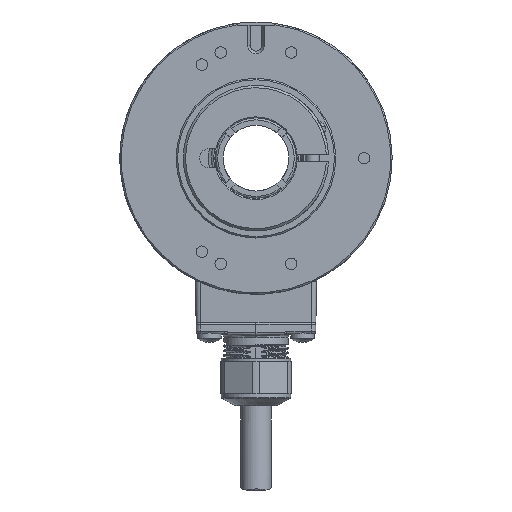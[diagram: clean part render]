
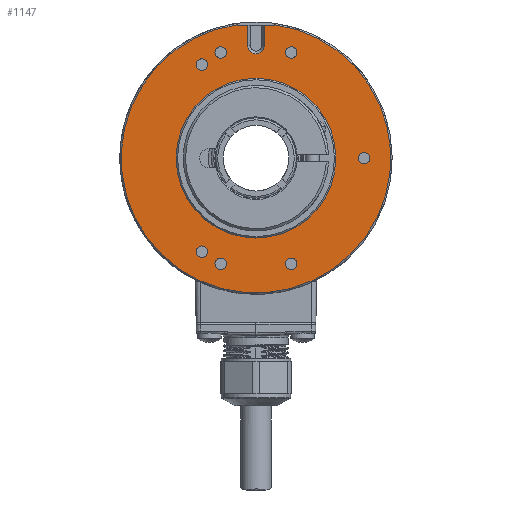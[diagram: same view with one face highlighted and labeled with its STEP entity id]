
A CAD part, left-side view. The second image highlights one B-rep face of the part: STEP entity #1147.
In plain terms, the highlighted planar face has unit normal (-1, 0, 0).
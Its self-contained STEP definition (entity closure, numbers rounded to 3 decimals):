
#1147 = ADVANCED_FACE( '', ( #2857, #2858, #2859, #2860, #2861, #2862, #2863, #2864, #2865 ), #2866, .T. );
#2857 = FACE_OUTER_BOUND( '', #9219, .T. );
#2858 = FACE_BOUND( '', #9220, .T. );
#2859 = FACE_BOUND( '', #9221, .T. );
#2860 = FACE_BOUND( '', #9222, .T. );
#2861 = FACE_BOUND( '', #9223, .T. );
#2862 = FACE_BOUND( '', #9224, .T. );
#2863 = FACE_BOUND( '', #9225, .T. );
#2864 = FACE_BOUND( '', #9226, .T. );
#2865 = FACE_BOUND( '', #9227, .T. );
#2866 = PLANE( '', #9228 );
#9219 = EDGE_LOOP( '', ( #21528, #21529, #21530, #21531, #21532, #21533, #21534, #21535 ) );
#9220 = EDGE_LOOP( '', ( #21536 ) );
#9221 = EDGE_LOOP( '', ( #21537 ) );
#9222 = EDGE_LOOP( '', ( #21538 ) );
#9223 = EDGE_LOOP( '', ( #21539 ) );
#9224 = EDGE_LOOP( '', ( #21540 ) );
#9225 = EDGE_LOOP( '', ( #21541 ) );
#9226 = EDGE_LOOP( '', ( #21542 ) );
#9227 = EDGE_LOOP( '', ( #21543 ) );
#9228 = AXIS2_PLACEMENT_3D( '', #21544, #21545, #21546 );
#21528 = ORIENTED_EDGE( '', *, *, #26523, .T. );
#21529 = ORIENTED_EDGE( '', *, *, #26524, .T. );
#21530 = ORIENTED_EDGE( '', *, *, #26525, .F. );
#21531 = ORIENTED_EDGE( '', *, *, #26526, .F. );
#21532 = ORIENTED_EDGE( '', *, *, #26527, .F. );
#21533 = ORIENTED_EDGE( '', *, *, #26528, .T. );
#21534 = ORIENTED_EDGE( '', *, *, #26529, .T. );
#21535 = ORIENTED_EDGE( '', *, *, #26530, .T. );
#21536 = ORIENTED_EDGE( '', *, *, #26531, .F. );
#21537 = ORIENTED_EDGE( '', *, *, #26532, .T. );
#21538 = ORIENTED_EDGE( '', *, *, #26533, .T. );
#21539 = ORIENTED_EDGE( '', *, *, #26534, .T. );
#21540 = ORIENTED_EDGE( '', *, *, #26140, .T. );
#21541 = ORIENTED_EDGE( '', *, *, #26535, .T. );
#21542 = ORIENTED_EDGE( '', *, *, #26536, .T. );
#21543 = ORIENTED_EDGE( '', *, *, #25948, .T. );
#21544 = CARTESIAN_POINT( '', ( 15., -0.002, 25.897 ) );
#21545 = DIRECTION( '', ( -1., 0., 0. ) );
#21546 = DIRECTION( '', ( 0., 1., 0. ) );
#25948 = EDGE_CURVE( '', #28519, #28519, #28520, .T. );
#26140 = EDGE_CURVE( '', #28837, #28837, #28838, .T. );
#26523 = EDGE_CURVE( '', #29450, #29451, #29452, .T. );
#26524 = EDGE_CURVE( '', #29451, #29453, #29454, .T. );
#26525 = EDGE_CURVE( '', #29455, #29453, #29456, .T. );
#26526 = EDGE_CURVE( '', #29457, #29455, #29458, .T. );
#26527 = EDGE_CURVE( '', #29459, #29457, #29460, .T. );
#26528 = EDGE_CURVE( '', #29459, #29461, #29462, .T. );
#26529 = EDGE_CURVE( '', #29461, #29463, #29464, .T. );
#26530 = EDGE_CURVE( '', #29463, #29450, #29465, .T. );
#26531 = EDGE_CURVE( '', #29466, #29466, #29467, .T. );
#26532 = EDGE_CURVE( '', #29468, #29468, #29469, .T. );
#26533 = EDGE_CURVE( '', #29470, #29470, #29471, .T. );
#26534 = EDGE_CURVE( '', #29472, #29472, #29473, .T. );
#26535 = EDGE_CURVE( '', #29474, #29474, #29475, .T. );
#26536 = EDGE_CURVE( '', #29476, #29476, #29477, .T. );
#28519 = VERTEX_POINT( '', #33026 );
#28520 = CIRCLE( '', #33027, 1.23 );
#28837 = VERTEX_POINT( '', #34066 );
#28838 = CIRCLE( '', #34067, 1.23 );
#29450 = VERTEX_POINT( '', #36201 );
#29451 = VERTEX_POINT( '', #36202 );
#29452 = LINE( '', #36203, #36204 );
#29453 = VERTEX_POINT( '', #36205 );
#29454 = LINE( '', #36206, #36207 );
#29455 = VERTEX_POINT( '', #36208 );
#29456 = LINE( '', #36209, #36210 );
#29457 = VERTEX_POINT( '', #36211 );
#29458 = CIRCLE( '', #36212, 1.78 );
#29459 = VERTEX_POINT( '', #36213 );
#29460 = LINE( '', #36214, #36215 );
#29461 = VERTEX_POINT( '', #36216 );
#29462 = LINE( '', #36217, #36218 );
#29463 = VERTEX_POINT( '', #36219 );
#29464 = LINE( '', #36220, #36221 );
#29465 = CIRCLE( '', #36222, 28.7 );
#29466 = VERTEX_POINT( '', #36223 );
#29467 = CIRCLE( '', #36224, 17. );
#29468 = VERTEX_POINT( '', #36225 );
#29469 = CIRCLE( '', #36226, 1.23 );
#29470 = VERTEX_POINT( '', #36227 );
#29471 = CIRCLE( '', #36228, 1.23 );
#29472 = VERTEX_POINT( '', #36229 );
#29473 = CIRCLE( '', #36230, 1.23 );
#29474 = VERTEX_POINT( '', #36231 );
#29475 = CIRCLE( '', #36232, 1.23 );
#29476 = VERTEX_POINT( '', #36233 );
#29477 = CIRCLE( '', #36234, 1.23 );
#33026 = CARTESIAN_POINT( '', ( 15., 10.435, -19.304 ) );
#33027 = AXIS2_PLACEMENT_3D( '', #45572, #45573, #45574 );
#34066 = CARTESIAN_POINT( '', ( 15., -24.065, 0.615 ) );
#34067 = AXIS2_PLACEMENT_3D( '', #45741, #45742, #45743 );
#36201 = CARTESIAN_POINT( '', ( 15., -4., 28.42 ) );
#36202 = CARTESIAN_POINT( '', ( 15., -4., 28.297 ) );
#36203 = CARTESIAN_POINT( '', ( 15., -4., 20.25 ) );
#36204 = VECTOR( '', #46135, 1000. );
#36205 = CARTESIAN_POINT( '', ( 15., -1.782, 28.297 ) );
#36206 = CARTESIAN_POINT( '', ( 15., -4.102, 28.297 ) );
#36207 = VECTOR( '', #46136, 1000. );
#36208 = CARTESIAN_POINT( '', ( 15., -1.782, 23.997 ) );
#36209 = CARTESIAN_POINT( '', ( 15., -1.782, 25.897 ) );
#36210 = VECTOR( '', #46137, 1000. );
#36211 = CARTESIAN_POINT( '', ( 15., 1.778, 23.997 ) );
#36212 = AXIS2_PLACEMENT_3D( '', #46138, #46139, #46140 );
#36213 = CARTESIAN_POINT( '', ( 15., 1.778, 28.297 ) );
#36214 = CARTESIAN_POINT( '', ( 15., 1.778, 25.897 ) );
#36215 = VECTOR( '', #46141, 1000. );
#36216 = CARTESIAN_POINT( '', ( 15., 4., 28.297 ) );
#36217 = CARTESIAN_POINT( '', ( 15., -4.102, 28.297 ) );
#36218 = VECTOR( '', #46142, 1000. );
#36219 = CARTESIAN_POINT( '', ( 15., 4., 28.42 ) );
#36220 = CARTESIAN_POINT( '', ( 15., 4., 20.25 ) );
#36221 = VECTOR( '', #46143, 1000. );
#36222 = AXIS2_PLACEMENT_3D( '', #46144, #46145, #46146 );
#36223 = CARTESIAN_POINT( '', ( 15., -14.722, 8.5 ) );
#36224 = AXIS2_PLACEMENT_3D( '', #46147, #46148, #46149 );
#36225 = CARTESIAN_POINT( '', ( 15., -8.565, 23.115 ) );
#36226 = AXIS2_PLACEMENT_3D( '', #46150, #46151, #46152 );
#36227 = CARTESIAN_POINT( '', ( 15., 6.435, 23.115 ) );
#36228 = AXIS2_PLACEMENT_3D( '', #46153, #46154, #46155 );
#36229 = CARTESIAN_POINT( '', ( 15., 10.435, 20.534 ) );
#36230 = AXIS2_PLACEMENT_3D( '', #46156, #46157, #46158 );
#36231 = CARTESIAN_POINT( '', ( 15., -8.565, -21.885 ) );
#36232 = AXIS2_PLACEMENT_3D( '', #46159, #46160, #46161 );
#36233 = CARTESIAN_POINT( '', ( 15., 6.435, -21.885 ) );
#36234 = AXIS2_PLACEMENT_3D( '', #46162, #46163, #46164 );
#45572 = CARTESIAN_POINT( '', ( 15., 11.5, -19.919 ) );
#45573 = DIRECTION( '', ( 1., 0., 0. ) );
#45574 = DIRECTION( '', ( 0., -0.866, 0.5 ) );
#45741 = CARTESIAN_POINT( '', ( 15., -23., 0. ) );
#45742 = DIRECTION( '', ( 1., 0., 0. ) );
#45743 = DIRECTION( '', ( 0., -0.866, 0.5 ) );
#46135 = DIRECTION( '', ( 0., 0., -1. ) );
#46136 = DIRECTION( '', ( 0., 1., 0. ) );
#46137 = DIRECTION( '', ( 0., 0., 1. ) );
#46138 = CARTESIAN_POINT( '', ( 15., -0.002, 23.997 ) );
#46139 = DIRECTION( '', ( -1., 0., 0. ) );
#46140 = DIRECTION( '', ( 0., 1., 0. ) );
#46141 = DIRECTION( '', ( 0., 0., -1. ) );
#46142 = DIRECTION( '', ( 0., 1., 0. ) );
#46143 = DIRECTION( '', ( 0., 0., 1. ) );
#46144 = CARTESIAN_POINT( '', ( 15., 0., 0. ) );
#46145 = DIRECTION( '', ( -1., 0., 0. ) );
#46146 = DIRECTION( '', ( 0., -0.866, 0.5 ) );
#46147 = CARTESIAN_POINT( '', ( 15., 0., 0. ) );
#46148 = DIRECTION( '', ( -1., 0., 0. ) );
#46149 = DIRECTION( '', ( 0., -0.866, 0.5 ) );
#46150 = CARTESIAN_POINT( '', ( 15., -7.5, 22.5 ) );
#46151 = DIRECTION( '', ( 1., 0., 0. ) );
#46152 = DIRECTION( '', ( 0., -0.866, 0.5 ) );
#46153 = CARTESIAN_POINT( '', ( 15., 7.5, 22.5 ) );
#46154 = DIRECTION( '', ( 1., 0., 0. ) );
#46155 = DIRECTION( '', ( 0., -0.866, 0.5 ) );
#46156 = CARTESIAN_POINT( '', ( 15., 11.5, 19.919 ) );
#46157 = DIRECTION( '', ( 1., 0., 0. ) );
#46158 = DIRECTION( '', ( 0., -0.866, 0.5 ) );
#46159 = CARTESIAN_POINT( '', ( 15., -7.5, -22.5 ) );
#46160 = DIRECTION( '', ( 1., 0., 0. ) );
#46161 = DIRECTION( '', ( 0., -0.866, 0.5 ) );
#46162 = CARTESIAN_POINT( '', ( 15., 7.5, -22.5 ) );
#46163 = DIRECTION( '', ( 1., 0., 0. ) );
#46164 = DIRECTION( '', ( 0., -0.866, 0.5 ) );
